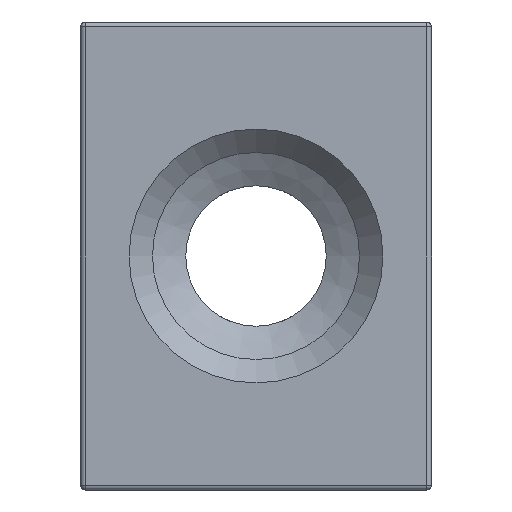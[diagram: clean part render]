
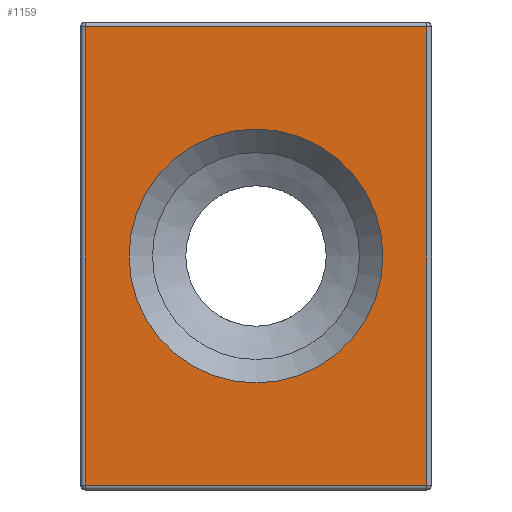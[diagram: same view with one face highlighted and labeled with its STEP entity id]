
A CAD part, left-side view. The second image highlights one B-rep face of the part: STEP entity #1159.
In plain terms, the highlighted planar face has unit normal (-1, 0, 0).
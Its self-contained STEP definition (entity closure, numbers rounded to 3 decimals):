
#83=FACE_BOUND('',#233,.T.);
#98=PLANE('',#1319);
#154=FACE_OUTER_BOUND('',#232,.T.);
#232=EDGE_LOOP('',(#1002,#1003,#1004,#1005));
#233=EDGE_LOOP('',(#1006));
#295=LINE('',#2194,#360);
#299=LINE('',#2219,#364);
#302=LINE('',#2224,#367);
#304=LINE('',#2227,#369);
#360=VECTOR('',#1588,10.);
#364=VECTOR('',#1622,10.);
#367=VECTOR('',#1629,10.);
#369=VECTOR('',#1633,10.);
#459=CIRCLE('',#1320,5.424);
#544=VERTEX_POINT('',#2168);
#551=VERTEX_POINT('',#2190);
#553=VERTEX_POINT('',#2198);
#556=VERTEX_POINT('',#2213);
#561=VERTEX_POINT('',#2246);
#692=EDGE_CURVE('',#544,#551,#295,.T.);
#705=EDGE_CURVE('',#556,#553,#299,.T.);
#708=EDGE_CURVE('',#551,#556,#302,.T.);
#710=EDGE_CURVE('',#553,#544,#304,.T.);
#719=EDGE_CURVE('',#561,#561,#459,.T.);
#1002=ORIENTED_EDGE('',*,*,#705,.F.);
#1003=ORIENTED_EDGE('',*,*,#708,.F.);
#1004=ORIENTED_EDGE('',*,*,#692,.F.);
#1005=ORIENTED_EDGE('',*,*,#710,.F.);
#1006=ORIENTED_EDGE('',*,*,#719,.F.);
#1159=ADVANCED_FACE('',(#154,#83),#98,.T.);
#1319=AXIS2_PLACEMENT_3D('',#2245,#1657,#1658);
#1320=AXIS2_PLACEMENT_3D('',#2247,#1659,#1660);
#1588=DIRECTION('',(0.,1.,0.));
#1622=DIRECTION('',(0.,-1.,0.));
#1629=DIRECTION('',(0.,0.,1.));
#1633=DIRECTION('',(0.,0.,-1.));
#1657=DIRECTION('center_axis',(-1.,0.,0.));
#1658=DIRECTION('ref_axis',(0.,0.,1.));
#1659=DIRECTION('center_axis',(-1.,0.,0.));
#1660=DIRECTION('ref_axis',(0.,1.,0.));
#2168=CARTESIAN_POINT('',(-37.5,-7.3,-9.8));
#2190=CARTESIAN_POINT('',(-37.5,7.3,-9.8));
#2194=CARTESIAN_POINT('',(-37.5,0.,-9.8));
#2198=CARTESIAN_POINT('',(-37.5,-7.3,9.8));
#2213=CARTESIAN_POINT('',(-37.5,7.3,9.8));
#2219=CARTESIAN_POINT('',(-37.5,0.,9.8));
#2224=CARTESIAN_POINT('',(-37.5,7.3,-5.));
#2227=CARTESIAN_POINT('',(-37.5,-7.3,-5.));
#2245=CARTESIAN_POINT('Origin',(-37.5,0.,-10.));
#2246=CARTESIAN_POINT('',(-37.5,-5.424,0.));
#2247=CARTESIAN_POINT('Origin',(-37.5,0.,0.));
